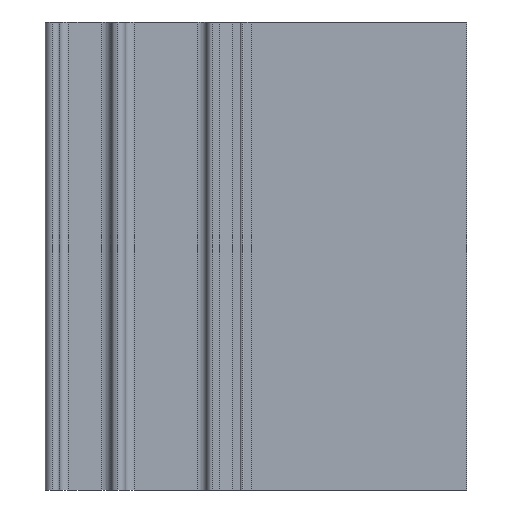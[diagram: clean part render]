
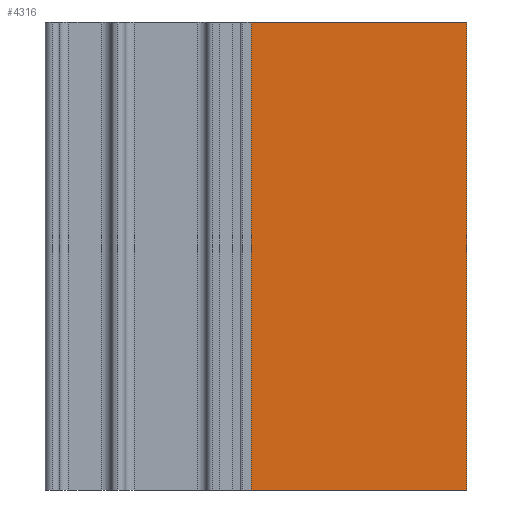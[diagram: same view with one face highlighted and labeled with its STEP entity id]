
A CAD part, left-side view. The second image highlights one B-rep face of the part: STEP entity #4316.
In plain terms, the highlighted planar face has unit normal (-1, 0, 0).
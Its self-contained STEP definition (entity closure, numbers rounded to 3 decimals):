
#13 = EDGE_CURVE ( 'NONE', #4200, #533, #817, .T. ) ;
#21 = EDGE_CURVE ( 'NONE', #533, #1355, #855, .T. ) ;
#256 = EDGE_CURVE ( 'NONE', #4516, #1355, #2213, .T. ) ;
#277 = ORIENTED_EDGE ( 'NONE', *, *, #1207, .T. ) ;
#361 = ORIENTED_EDGE ( 'NONE', *, *, #256, .T. ) ;
#525 = ORIENTED_EDGE ( 'NONE', *, *, #13, .F. ) ;
#533 = VERTEX_POINT ( 'NONE', #3778 ) ;
#817 = LINE ( 'NONE', #818, #819 ) ;
#818 = CARTESIAN_POINT ( 'NONE',  ( -3.2, 23., 50. ) ) ;
#819 = VECTOR ( 'NONE', #820, 1000. ) ;
#820 = DIRECTION ( 'NONE',  ( 0., -1., 0. ) ) ;
#855 = LINE ( 'NONE', #856, #857 ) ;
#856 = CARTESIAN_POINT ( 'NONE',  ( -3.2, 0., 50. ) ) ;
#857 = VECTOR ( 'NONE', #858, 1000. ) ;
#858 = DIRECTION ( 'NONE',  ( 0., 0., -1. ) ) ;
#1207 = EDGE_CURVE ( 'NONE', #4200, #4516, #2737, .T. ) ;
#1355 = VERTEX_POINT ( 'NONE', #2787 ) ;
#1680 = CARTESIAN_POINT ( 'NONE',  ( -3.2, 23., 0. ) ) ;
#2073 = ORIENTED_EDGE ( 'NONE', *, *, #21, .F. ) ;
#2213 = LINE ( 'NONE', #2214, #2215 ) ;
#2214 = CARTESIAN_POINT ( 'NONE',  ( -3.2, 23., 0. ) ) ;
#2215 = VECTOR ( 'NONE', #2216, 1000. ) ;
#2216 = DIRECTION ( 'NONE',  ( 0., -1., 0. ) ) ;
#2600 = CARTESIAN_POINT ( 'NONE',  ( -3.2, 23., 50. ) ) ;
#2737 = LINE ( 'NONE', #2738, #2739 ) ;
#2738 = CARTESIAN_POINT ( 'NONE',  ( -3.2, 23., 50. ) ) ;
#2739 = VECTOR ( 'NONE', #2740, 1000. ) ;
#2740 = DIRECTION ( 'NONE',  ( 0., 0., -1. ) ) ;
#2787 = CARTESIAN_POINT ( 'NONE',  ( -3.2, 0., 0. ) ) ;
#3371 = FACE_OUTER_BOUND ( 'NONE', #4284, .T. ) ;
#3372 = PLANE ( 'NONE',  #3373 ) ;
#3373 = AXIS2_PLACEMENT_3D ( 'NONE', #3374, #3375, #3376 ) ;
#3374 = CARTESIAN_POINT ( 'NONE',  ( -3.2, 23., 50. ) ) ;
#3375 = DIRECTION ( 'NONE',  ( 1., 0., 0. ) ) ;
#3376 = DIRECTION ( 'NONE',  ( 0., 0., -1. ) ) ;
#3778 = CARTESIAN_POINT ( 'NONE',  ( -3.2, 0., 50. ) ) ;
#4200 = VERTEX_POINT ( 'NONE', #2600 ) ;
#4284 = EDGE_LOOP ( 'NONE', ( #361, #2073, #525, #277 ) ) ;
#4316 = ADVANCED_FACE ( 'NONE', ( #3371 ), #3372, .F. ) ;
#4516 = VERTEX_POINT ( 'NONE', #1680 ) ;
